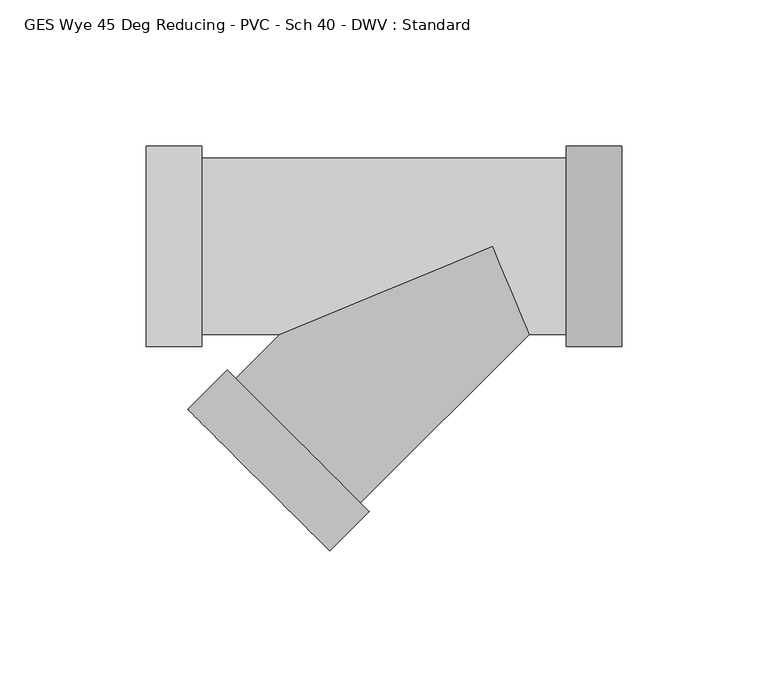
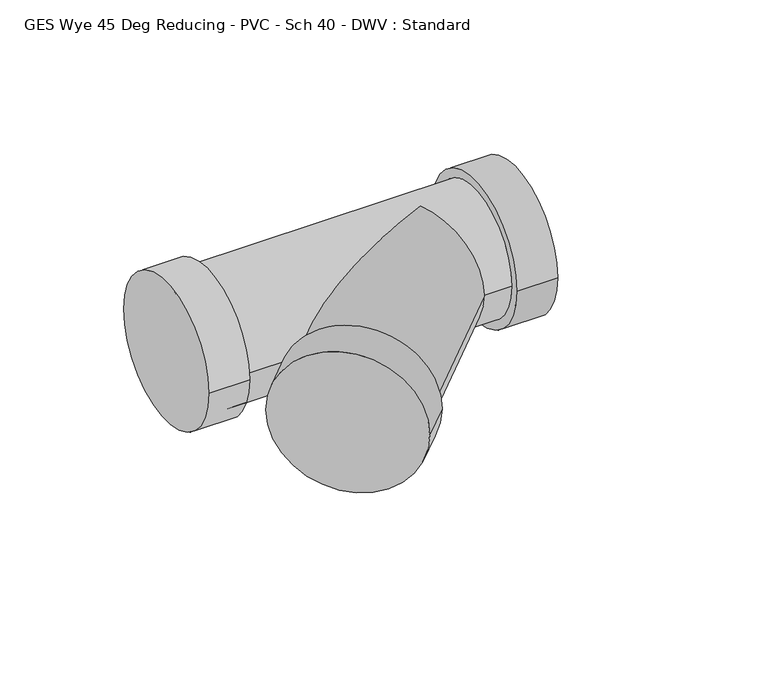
"""IFC4 building model written with IfcOpenShell, lengths in millimetres: pipe fitting geometry, GES Wye 45 Deg Reducing - PVC - Sch 40 - DWV : Standard."""

import ifcopenshell
import ifcopenshell.guid

model = None  # the IFC model being written
_history = None  # IfcOwnerHistory: only IFC2X3 demands one
_inside = {}  # id of a spatial element -> (the spatial element, [elements in it])
_under = {}  # id of a project, library or spatial element -> (it, [spatial elements below it])
_declared = {}  # id of a project -> (the project, [libraries it declares])
_typed = {}  # id of a type object -> (the type object, [elements of that type])
_made_of = {}  # id of a material, layer set ... -> (it, [elements and type objects made of it])


def new_model(schema):
    """Start an empty IFC model of exactly this schema.

    Asked for "IFC4X3", IfcOpenShell would pick the latest addendum, in which some entities
    have other attributes; the version numbers below select the first issue.
    IFC2X3 requires an IfcOwnerHistory on every rooted entity: one is made here for all.
    """
    global model, _history
    if schema == "IFC4X3":
        model = ifcopenshell.file(schema_version=(4, 3, 0, 0))
    else:
        model = ifcopenshell.file(schema=schema)
    _inside.clear()
    _under.clear()
    _declared.clear()
    _typed.clear()
    _made_of.clear()
    _history = None
    if model.schema == "IFC2X3":
        org = make("IfcOrganization", Name="unknown")
        user = make(
            "IfcPersonAndOrganization",
            ThePerson=make("IfcPerson", FamilyName="unknown"),
            TheOrganization=org,
        )
        app = make(
            "IfcApplication",
            ApplicationDeveloper=org,
            Version="unknown",
            ApplicationFullName="unknown",
            ApplicationIdentifier="unknown",
        )
        _history = make(
            "IfcOwnerHistory",
            OwningUser=user,
            OwningApplication=app,
            ChangeAction="ADDED",
            CreationDate=0,
        )
    return model


def make(cls, **values):
    """One entity of the class cls with the attributes given. An attribute that is None is left unset."""
    return model.create_entity(
        cls, **{name: value for name, value in values.items() if value is not None}
    )


def rooted(cls, **values):
    """An entity with a GlobalId (a new one), such as an element, a storey or a relation."""
    return make(cls, GlobalId=ifcopenshell.guid.new(), OwnerHistory=_history, **values)


def si_unit(unit_type, name, prefix=None):
    """IfcSIUnit, for example si_unit("LENGTHUNIT", "METRE", prefix="MILLI")."""
    return make("IfcSIUnit", UnitType=unit_type, Prefix=prefix, Name=name)


def assignment(units):
    """IfcUnitAssignment: the units of a project."""
    return None if units is None else make("IfcUnitAssignment", Units=units)


def point(xyz):
    """IfcCartesianPoint."""
    return None if xyz is None else make("IfcCartesianPoint", Coordinates=xyz)


def direction(xyz):
    """IfcDirection."""
    return None if xyz is None else make("IfcDirection", DirectionRatios=xyz)


def frame(location, z_axis=None, x_axis=None):
    """IfcAxis2Placement3D, a coordinate frame: its origin and axes. An axis left out is left unset."""
    return make(
        "IfcAxis2Placement3D",
        Location=point(location),
        Axis=direction(z_axis),
        RefDirection=direction(x_axis),
    )


def origin():
    """The frame at (0, 0, 0) with its axes left unset."""
    return frame((0.0, 0.0, 0.0))


def place(relative_to, where):
    """IfcLocalPlacement: puts the frame where relative to a parent placement (None: the world)."""
    return make(
        "IfcLocalPlacement", PlacementRelTo=relative_to, RelativePlacement=where
    )


def context(
    kind, dimensions, precision=None, world=None, true_north=None, identifier=None
):
    """IfcGeometricRepresentationContext, for example the 3D "Model" context."""
    return make(
        "IfcGeometricRepresentationContext",
        ContextIdentifier=identifier,
        ContextType=kind,
        CoordinateSpaceDimension=dimensions,
        Precision=precision,
        WorldCoordinateSystem=world,
        TrueNorth=true_north,
    )


def project(units=None, contexts=None):
    """IfcProject with its units and contexts."""
    return rooted(
        "IfcProject",
        Name="project",
        RepresentationContexts=contexts,
        UnitsInContext=assignment(units),
    )


def spatial(cls, under=None, at=None, **own):
    """A site, building, storey or space (cls), placed at a placement, below another one or the project."""
    s = rooted(cls, ObjectPlacement=at, **own)
    if under is not None:
        _under.setdefault(under.id(), (under, []))[1].append(s)
    return s


def circle_curve(where, radius):
    """IfcCircle in the frame where."""
    return make("IfcCircle", Position=where, Radius=radius)


def ellipse_curve(where, semi_axis1, semi_axis2):
    """IfcEllipse in the frame where."""
    return make(
        "IfcEllipse", Position=where, SemiAxis1=semi_axis1, SemiAxis2=semi_axis2
    )


def shape(context_of_items, identifier, shape_type, items):
    """IfcShapeRepresentation: the items that make up one representation, for example the "Body"."""
    return make(
        "IfcShapeRepresentation",
        ContextOfItems=context_of_items,
        RepresentationIdentifier=identifier,
        RepresentationType=shape_type,
        Items=items,
    )


def source(mapping_origin, context_of_items, identifier, shape_type, items):
    """IfcRepresentationMap: a shape defined once, which mapped items show again and again."""
    return make(
        "IfcRepresentationMap",
        MappingOrigin=mapping_origin,
        MappedRepresentation=shape(context_of_items, identifier, shape_type, items),
    )


def transform(
    local_origin,
    x_axis=None,
    y_axis=None,
    z_axis=None,
    scale=None,
    scale2=None,
    scale3=None,
    uniform=True,
):
    """IfcCartesianTransformationOperator3D, or its non-uniform kind. x_axis, y_axis, z_axis: its Axis1, 2, 3."""
    if uniform:
        return make(
            "IfcCartesianTransformationOperator3D",
            Axis1=direction(x_axis),
            Axis2=direction(y_axis),
            LocalOrigin=point(local_origin),
            Scale=scale,
            Axis3=direction(z_axis),
        )
    return make(
        "IfcCartesianTransformationOperator3DnonUniform",
        Axis1=direction(x_axis),
        Axis2=direction(y_axis),
        LocalOrigin=point(local_origin),
        Scale=scale,
        Axis3=direction(z_axis),
        Scale2=scale2,
        Scale3=scale3,
    )


def mapped(mapping_source, mapping_target):
    """IfcMappedItem: shows the shape of a source again, moved by a transform."""
    return make(
        "IfcMappedItem", MappingSource=mapping_source, MappingTarget=mapping_target
    )


def made_of(thing, what):
    """Note that an element or type object is made of a material, layer set ...; save() writes the relation."""
    if what is not None:
        _made_of.setdefault(what.id(), (what, []))[1].append(thing)
    return thing


def element(
    cls,
    number,
    at=None,
    inside=None,
    cuts=None,
    type_object=None,
    material=None,
    context=None,
    identifier="Body",
    shape_type=None,
    held_by="IfcProductDefinitionShape",
    body=None,
    shapes=None,
    **own,
):
    """One element of the class cls, such as IfcWall. Its Tag is "e" and its number.

    at: its placement. inside: the storey or other place that contains it. cuts: it is an
    opening in that element (IfcRelVoidsElement). A single representation is given by context,
    identifier, shape_type and body (its items); several are given by shapes. held_by: the class
    of the entity that holds the representations. save() writes the other relations.
    """
    e = rooted(cls, Tag="e%d" % number, ObjectPlacement=at, **own)
    if body is not None:
        shapes = [shape(context, identifier, shape_type, body)]
    if shapes is not None:
        e.Representation = make(held_by, Representations=shapes)
    if inside is not None:
        _inside.setdefault(inside.id(), (inside, []))[1].append(e)
    if cuts is not None:
        rooted(
            "IfcRelVoidsElement", RelatingBuildingElement=cuts, RelatedOpeningElement=e
        )
    if type_object is not None:
        _typed.setdefault(type_object.id(), (type_object, []))[1].append(e)
    return made_of(e, material)


def aggregate(whole, parts):
    """IfcRelAggregates: a whole, such as a stair, and the parts it consists of."""
    return rooted("IfcRelAggregates", RelatingObject=whole, RelatedObjects=parts)


def save(model, path):
    """Write the relations noted so far, then the file.

    IfcRelAggregates (storeys below a building ...), IfcRelContainedInSpatialStructure (elements
    in a storey), IfcRelDefinesByType, IfcRelAssociatesMaterial and IfcRelDeclares: one each for
    every whole, place, type object, material and project.
    """
    for whole, parts in _under.values():
        aggregate(whole, parts)
    for where, things in _inside.values():
        rooted(
            "IfcRelContainedInSpatialStructure",
            RelatedElements=things,
            RelatingStructure=where,
        )
    for kind, things in _typed.values():
        rooted("IfcRelDefinesByType", RelatedObjects=things, RelatingType=kind)
    for what, things in _made_of.values():
        rooted("IfcRelAssociatesMaterial", RelatedObjects=things, RelatingMaterial=what)
    for by, libraries in _declared.values():
        rooted("IfcRelDeclares", RelatingContext=by, RelatedDefinitions=libraries)
    model.write(path)


def plane_surface(at):
    """IfcPlane: the flat surface through the origin of the frame at, square to its z axis."""
    return make("IfcPlane", Position=at)


def cylinder_surface(at, radius):
    """IfcCylindricalSurface: all points at the distance radius from the z axis of the frame at."""
    return make("IfcCylindricalSurface", Position=at, Radius=radius)


def advanced_brep(points, edges, surfaces, faces):
    """IfcAdvancedBrep: a solid bounded by faces that lie on surfaces and meet in shared edges.

    An edge is (start, end): straight between two places in points (the first is 0);
    or (start, end, curve); or (start, end, curve, False) where it runs against its curve.
    A face is (place in surfaces, loops), or (place, loops, False) where it looks against
    its surface's normal. A loop lists edges by number (the first is 1), with a minus sign
    where the edge is run from its end to its start. The first loop is the outer one.
    """
    corners = [point(p) for p in points]
    vertices = [make("IfcVertexPoint", VertexGeometry=c) for c in corners]
    made = []
    for start, end, *more in edges:
        made.append(
            make(
                "IfcEdgeCurve",
                EdgeStart=vertices[start],
                EdgeEnd=vertices[end],
                EdgeGeometry=more[0] if more else make("IfcPolyline", Points=[corners[start], corners[end]]),
                SameSense=more[1] if len(more) > 1 else True,
            )
        )
    hull = []
    for where, loops, *sense in faces:
        bounds = []
        for j, loop in enumerate(loops):
            ring = [make("IfcOrientedEdge", EdgeElement=made[abs(k) - 1], Orientation=k > 0) for k in loop]
            bounds.append(
                make(
                    "IfcFaceOuterBound" if j == 0 else "IfcFaceBound",
                    Bound=make("IfcEdgeLoop", EdgeList=ring),
                    Orientation=True,
                )
            )
        hull.append(make("IfcAdvancedFace", Bounds=bounds, FaceSurface=surfaces[where], SameSense=sense[0] if sense else True))
    return make("IfcAdvancedBrep", Outer=make("IfcClosedShell", CfsFaces=hull))


def ges_wye_45_deg_reducing_pvc_sch_40_dwv_standard_77a13697(model_context):
    return source(origin(), model_context, "Body", "AdvancedBrep", [
        advanced_brep(
        [(-99.5759375, 34.3154, 0.0), (-99.5759375, -34.3154, 0.0), (-99.5759375, 30.1625, 0.0), (-99.5759375, -30.1625, 0.0), (-118.6259375, 34.3154, 0.0), (-118.6259375, -34.3154, 0.0), (25.1182188, -34.3154, 0.0), (25.1182188, 34.3154, 0.0), (25.1182188, -30.1625, 0.0), (25.1182188, 30.1625, 0.0), (44.1682188, -34.3154, 0.0), (44.1682188, 34.3154, 0.0), (12.4927406, -30.1625, 0.0), (0.0, 0.0, -30.1625), (-72.8244052, -30.1625, 0.0), (0.0, 0.0, 30.1625), (-87.9388527, -45.2752778, 0.0), (-45.2849923, -87.9338505, 0.0), (-90.8752342, -42.3385719, 0.0), (-42.3486108, -90.8705565, 0.0), (-104.3463625, -55.808212, 0.0), (-55.819739, -104.3401966, 0.0)],
        [
            (0, 1, circle_curve(frame((-99.5759375, 0.0, 0.0), z_axis=(1.0, 0.0, 0.0), x_axis=(0.0, -1.0, 0.0)), 34.3154)),
            (1, 0, circle_curve(frame((-99.5759375, 0.0, 0.0), z_axis=(1.0, 0.0, 0.0), x_axis=(0.0, -1.0, 0.0)), 34.3154)),
            (2, 3, circle_curve(frame((-99.5759375, 0.0, 0.0), z_axis=(-1.0, 0.0, 0.0), x_axis=(0.0, 0.0, -1.0)), 30.1625)),
            (3, 2, circle_curve(frame((-99.5759375, 0.0, 0.0), z_axis=(-1.0, 0.0, 0.0), x_axis=(0.0, 0.0, 1.0)), 30.1625)),
            (4, 5, circle_curve(frame((-118.6259375, 0.0, 0.0), z_axis=(-1.0, 0.0, 0.0), x_axis=(0.0, -1.0, 0.0)), 34.3154)),
            (5, 4, circle_curve(frame((-118.6259375, 0.0, 0.0), z_axis=(-1.0, 0.0, 0.0), x_axis=(0.0, -1.0, 0.0)), 34.3154)),
            (0, 4),
            (5, 1),
            (6, 7, circle_curve(frame((25.1182188, 0.0, 0.0), z_axis=(-1.0, 0.0, 0.0), x_axis=(0.0, 1.0, 0.0)), 34.3154)),
            (7, 6, circle_curve(frame((25.1182188, 0.0, 0.0), z_axis=(-1.0, 0.0, 0.0), x_axis=(0.0, 1.0, 0.0)), 34.3154)),
            (8, 9, circle_curve(frame((25.1182188, 0.0, 0.0), z_axis=(1.0, 0.0, 0.0), x_axis=(0.0, 0.0, -1.0)), 30.1625)),
            (9, 8, circle_curve(frame((25.1182188, 0.0, 0.0), z_axis=(1.0, 0.0, 0.0), x_axis=(0.0, 0.0, 1.0)), 30.1625)),
            (10, 11, circle_curve(frame((44.1682188, 0.0, 0.0), z_axis=(1.0, 0.0, 0.0), x_axis=(0.0, 1.0, 0.0)), 34.3154)),
            (11, 10, circle_curve(frame((44.1682188, 0.0, 0.0), z_axis=(1.0, 0.0, 0.0), x_axis=(0.0, 1.0, 0.0)), 34.3154)),
            (6, 10),
            (11, 7),
            (2, 9),
            (8, 12),
            (12, 13, ellipse_curve(frame((0.0, 0.0, 0.0), z_axis=(0.9238901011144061, 0.38265791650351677, 0.0), x_axis=(0.3826579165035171, -0.923890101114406, 0.0)), 32.6472813, 30.1625)),
            (13, 14, ellipse_curve(frame((0.0, 0.0, 0.0), z_axis=(-0.3826579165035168, 0.9238901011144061, 0.0), x_axis=(0.9238901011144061, 0.38265791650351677, 0.0)), 78.8236665, 30.1625)),
            (14, 3),
            (14, 15, ellipse_curve(frame((0.0, 0.0, 0.0), z_axis=(-0.3826579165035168, 0.9238901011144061, 0.0), x_axis=(0.9238901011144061, 0.38265791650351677, 0.0)), 78.8236665, 30.1625)),
            (15, 12, ellipse_curve(frame((0.0, 0.0, 0.0), z_axis=(0.9238901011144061, 0.38265791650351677, 0.0), x_axis=(0.3826579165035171, -0.923890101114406, 0.0)), 32.6472813, 30.1625)),
            (14, 16),
            (16, 17, circle_curve(frame((-66.6119225, -66.6045642, 0.0), z_axis=(0.7071458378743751, 0.7070677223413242, 0.0), x_axis=(0.7070677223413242, -0.7071458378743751, 0.0)), 30.1625)),
            (17, 12),
            (17, 16, circle_curve(frame((-66.6119225, -66.6045642, 0.0), z_axis=(0.7071458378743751, 0.7070677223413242, 0.0), x_axis=(0.7070677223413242, -0.7071458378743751, 0.0)), 30.1625)),
            (18, 19, circle_curve(frame((-66.6119225, -66.6045642, 0.0), z_axis=(0.7071458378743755, 0.7070677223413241, 0.0), x_axis=(0.7070677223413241, -0.7071458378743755, 0.0)), 34.3154)),
            (19, 18, circle_curve(frame((-66.6119225, -66.6045642, 0.0), z_axis=(0.7071458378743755, 0.7070677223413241, 0.0), x_axis=(0.7070677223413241, -0.7071458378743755, 0.0)), 34.3154)),
            (20, 21, circle_curve(frame((-80.0830507, -80.0742043, 0.0), z_axis=(-0.7071458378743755, -0.7070677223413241, 0.0), x_axis=(0.7070677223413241, -0.7071458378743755, 0.0)), 34.3154)),
            (21, 20, circle_curve(frame((-80.0830507, -80.0742043, 0.0), z_axis=(-0.7071458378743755, -0.7070677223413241, 0.0), x_axis=(0.7070677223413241, -0.7071458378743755, 0.0)), 34.3154)),
            (18, 20),
            (21, 19),
        ],
        [
            plane_surface(frame((-99.5759375, 0.0, 0.0), z_axis=(1.0, 0.0, 0.0), x_axis=(0.0, 0.0, 1.0))),
            plane_surface(frame((-118.6259375, 0.0, 0.0), z_axis=(-1.0, 0.0, 0.0), x_axis=(0.0, 0.0, 1.0))),
            cylinder_surface(frame((-99.5759375, 0.0, 0.0), z_axis=(1.0, 0.0, 0.0), x_axis=(0.0, -1.0, 0.0)), 34.3154),
            plane_surface(frame((25.1182188, 0.0, 0.0), z_axis=(-1.0, 0.0, 0.0), x_axis=(0.0, 0.0, 1.0))),
            plane_surface(frame((44.1682188, 0.0, 0.0), z_axis=(1.0, 0.0, 0.0), x_axis=(0.0, 0.0, 1.0))),
            cylinder_surface(frame((25.1182188, 0.0, 0.0), z_axis=(-1.0, 0.0, 0.0), x_axis=(0.0, 1.0, 0.0)), 34.3154),
            cylinder_surface(frame((-99.5759375, 0.0, 0.0), z_axis=(1.0, 0.0, 0.0), x_axis=(0.0, 0.0, -1.0)), 30.1625),
            cylinder_surface(frame((-99.5759375, 0.0, 0.0), z_axis=(1.0, 0.0, 0.0), x_axis=(0.0, 0.0, 1.0)), 30.1625),
            cylinder_surface(frame((0.0, 0.0, 0.0), z_axis=(0.7071458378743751, 0.7070677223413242, 0.0), x_axis=(0.7070677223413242, -0.7071458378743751, 0.0)), 30.1625),
            plane_surface(frame((-66.6119225, -66.6045642, 0.0), z_axis=(0.7071458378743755, 0.7070677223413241, 0.0), x_axis=(0.0, 0.0, 1.0))),
            plane_surface(frame((-80.0830507, -80.0742043, 0.0), z_axis=(-0.7071458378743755, -0.7070677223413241, 0.0), x_axis=(0.0, 0.0, 1.0))),
            cylinder_surface(frame((-66.6119225, -66.6045642, 0.0), z_axis=(0.7071458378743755, 0.7070677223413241, 0.0), x_axis=(0.7070677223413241, -0.7071458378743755, 0.0)), 34.3154),
        ],
        [
            (0, [[1, 2], [3, 4]]),
            (1, [[5, 6]]),
            (2, [[-1, 7, -6, 8]]),
            (2, [[-2, -8, -5, -7]]),
            (3, [[9, 10], [11, 12]]),
            (4, [[13, 14]]),
            (5, [[-9, 15, -14, 16]]),
            (5, [[-10, -16, -13, -15]]),
            (6, [[17, -11, 18, 19, 20, 21, -3]]),
            (7, [[-17, -4, -21, 22, 23, -18, -12]]),
            (8, [[24, 25, 26, -23, -22]]),
            (8, [[-24, -20, -19, -26, 27]]),
            (9, [[28, 29], [-25, -27]]),
            (10, [[30, 31]]),
            (11, [[-28, 32, -31, 33]]),
            (11, [[-29, -33, -30, -32]]),
        ],
    ),
    ])


if __name__ == "__main__":
    model = new_model("IFC4")
    model_context = context("Model", 3, world=origin())
    ifc_project = project(units=[si_unit("LENGTHUNIT", "METRE", prefix="MILLI")], contexts=[model_context])
    site = spatial("IfcSite", under=ifc_project)
    building = spatial("IfcBuilding", under=site)
    placement = place(None, origin())
    ges_wye_45_deg_reducing_pvc_sch_40_dwv_standard_shape = ges_wye_45_deg_reducing_pvc_sch_40_dwv_standard_77a13697(model_context)
    element("IfcPipeFitting", 1, ObjectType="GES Wye 45 Deg Reducing - PVC - Sch 40 - DWV : Standard", at=placement, inside=building, context=model_context, shape_type="MappedRepresentation", body=[
        mapped(ges_wye_45_deg_reducing_pvc_sch_40_dwv_standard_shape, transform((0.0, 0.0, 0.0), x_axis=(1.0, 0.0, 0.0), y_axis=(0.0, 1.0, 0.0), z_axis=(0.0, 0.0, 1.0))),
    ])
    save(model, "model.ifc")
